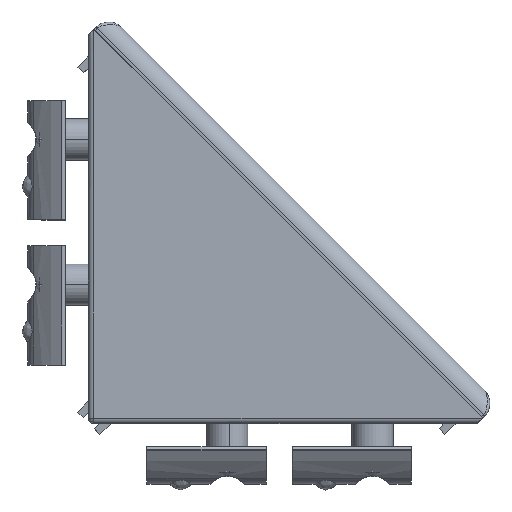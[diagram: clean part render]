
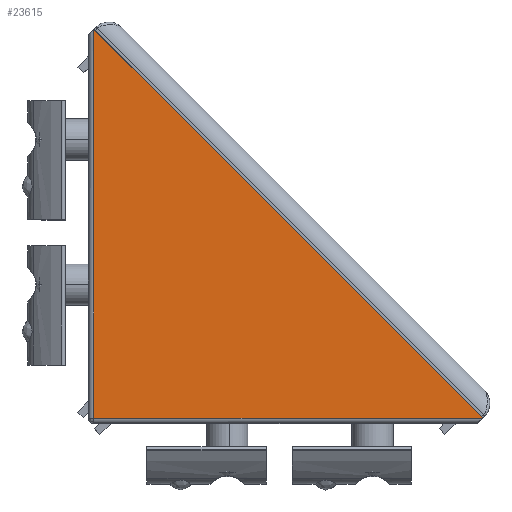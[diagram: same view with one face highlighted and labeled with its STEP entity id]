
A CAD part, top view. The second image highlights one B-rep face of the part: STEP entity #23615.
In plain terms, the highlighted planar face has unit normal (0, 0, 1) as drawn and (1, 0, 0) by its records, which use the part's own axes.
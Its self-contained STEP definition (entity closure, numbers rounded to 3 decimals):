
#429 = CARTESIAN_POINT ( 'NONE',  ( 38., 1., 75. ) ) ;
#1065 = DIRECTION ( 'NONE',  ( 0., 0., -1. ) ) ;
#1351 = CARTESIAN_POINT ( 'NONE',  ( 38., 1.047, 0. ) ) ;
#1491 = EDGE_LOOP ( 'NONE', ( #26665, #8735, #28778, #25083, #12850 ) ) ;
#2228 = VERTEX_POINT ( 'NONE', #17078 ) ;
#2733 = VECTOR ( 'NONE', #1065, 1000. ) ;
#2777 = CARTESIAN_POINT ( 'NONE',  ( 38., 74.953, 76. ) ) ;
#3376 = VERTEX_POINT ( 'NONE', #429 ) ;
#3445 = LINE ( 'NONE', #28562, #2733 ) ;
#4292 = VECTOR ( 'NONE', #23471, 1000. ) ;
#4948 = CARTESIAN_POINT ( 'NONE',  ( 38., 76., 74.953 ) ) ;
#6365 = CARTESIAN_POINT ( 'NONE',  ( 38., 0., 76. ) ) ;
#8686 = DIRECTION ( 'NONE',  ( 0., 0., -1. ) ) ;
#8735 = ORIENTED_EDGE ( 'NONE', *, *, #23787, .T. ) ;
#8935 = VERTEX_POINT ( 'NONE', #1351 ) ;
#10206 = DIRECTION ( 'NONE',  ( 0., -1., 0. ) ) ;
#11300 = LINE ( 'NONE', #23986, #28586 ) ;
#12083 = DIRECTION ( 'NONE',  ( 0., 0.707, 0.707 ) ) ;
#12850 = ORIENTED_EDGE ( 'NONE', *, *, #25040, .T. ) ;
#13154 = VECTOR ( 'NONE', #15756, 1000. ) ;
#13954 = CARTESIAN_POINT ( 'NONE',  ( 38., 75.953, 75. ) ) ;
#15756 = DIRECTION ( 'NONE',  ( 0., 0.707, -0.707 ) ) ;
#16183 = VECTOR ( 'NONE', #12083, 1000. ) ;
#16848 = EDGE_CURVE ( 'NONE', #23002, #3376, #11300, .T. ) ;
#17078 = CARTESIAN_POINT ( 'NONE',  ( 38., 76., 74.953 ) ) ;
#17215 = CARTESIAN_POINT ( 'NONE',  ( 38., 0., 1.047 ) ) ;
#18400 = EDGE_CURVE ( 'NONE', #8935, #2228, #22288, .T. ) ;
#18941 = CARTESIAN_POINT ( 'NONE',  ( 38., 1., 0.047 ) ) ;
#19917 = EDGE_CURVE ( 'NONE', #3376, #24924, #3445, .T. ) ;
#21900 = LINE ( 'NONE', #2777, #4292 ) ;
#22288 = LINE ( 'NONE', #4948, #16183 ) ;
#22445 = DIRECTION ( 'NONE',  ( 1., 0., 0. ) ) ;
#23002 = VERTEX_POINT ( 'NONE', #13954 ) ;
#23471 = DIRECTION ( 'NONE',  ( 0., -0.707, 0.707 ) ) ;
#23615 = ADVANCED_FACE ( 'NONE', ( #24475 ), #27008, .T. ) ;
#23787 = EDGE_CURVE ( 'NONE', #2228, #23002, #21900, .T. ) ;
#23986 = CARTESIAN_POINT ( 'NONE',  ( 38., 0., 75. ) ) ;
#24475 = FACE_OUTER_BOUND ( 'NONE', #1491, .T. ) ;
#24695 = LINE ( 'NONE', #17215, #13154 ) ;
#24924 = VERTEX_POINT ( 'NONE', #18941 ) ;
#25040 = EDGE_CURVE ( 'NONE', #24924, #8935, #24695, .T. ) ;
#25083 = ORIENTED_EDGE ( 'NONE', *, *, #19917, .T. ) ;
#26665 = ORIENTED_EDGE ( 'NONE', *, *, #18400, .T. ) ;
#27004 = AXIS2_PLACEMENT_3D ( 'NONE', #6365, #22445, #8686 ) ;
#27008 = PLANE ( 'NONE',  #27004 ) ;
#28562 = CARTESIAN_POINT ( 'NONE',  ( 38., 1., 76. ) ) ;
#28586 = VECTOR ( 'NONE', #10206, 1000. ) ;
#28778 = ORIENTED_EDGE ( 'NONE', *, *, #16848, .T. ) ;
